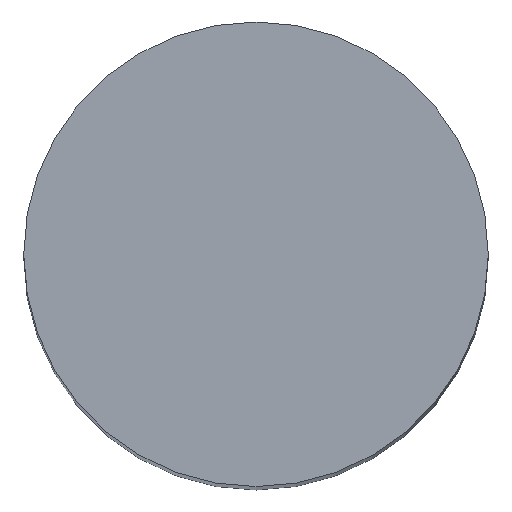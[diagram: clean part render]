
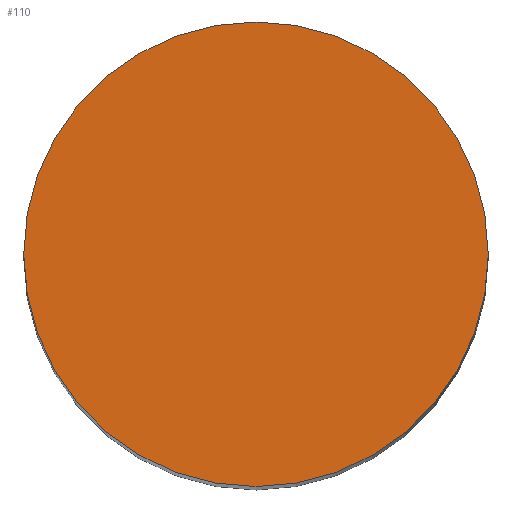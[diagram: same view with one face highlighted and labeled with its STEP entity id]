
A CAD part, top view. The second image highlights one B-rep face of the part: STEP entity #110.
In plain terms, the highlighted planar face has unit normal (0, 0, 1).
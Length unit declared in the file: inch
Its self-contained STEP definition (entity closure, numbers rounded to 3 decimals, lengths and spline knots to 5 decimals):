
#79=CARTESIAN_POINT('',(0.11811,0.,1.0));
#80=VERTEX_POINT('',#79);
#81=CARTESIAN_POINT('',(0.0,0.0,1.0));
#82=DIRECTION('',(0.0,0.0,-1.0));
#83=DIRECTION('',(-1.0,0.0,0.0));
#84=AXIS2_PLACEMENT_3D('',#81,#82,#83);
#85=CIRCLE('',#84,0.11811);
#86=EDGE_CURVE('',#80,#80,#85,.T.);
#102=CARTESIAN_POINT('',(0.0,0.0,1.0));
#103=DIRECTION('',(0.0,0.0,-1.0));
#104=DIRECTION('',(-1.0,0.0,0.0));
#105=AXIS2_PLACEMENT_3D('',#102,#103,#104);
#106=PLANE('',#105);
#107=ORIENTED_EDGE('',*,*,#86,.F.);
#108=EDGE_LOOP('',(#107));
#109=FACE_OUTER_BOUND('',#108,.T.);
#110=ADVANCED_FACE('',(#109),#106,.F.);
